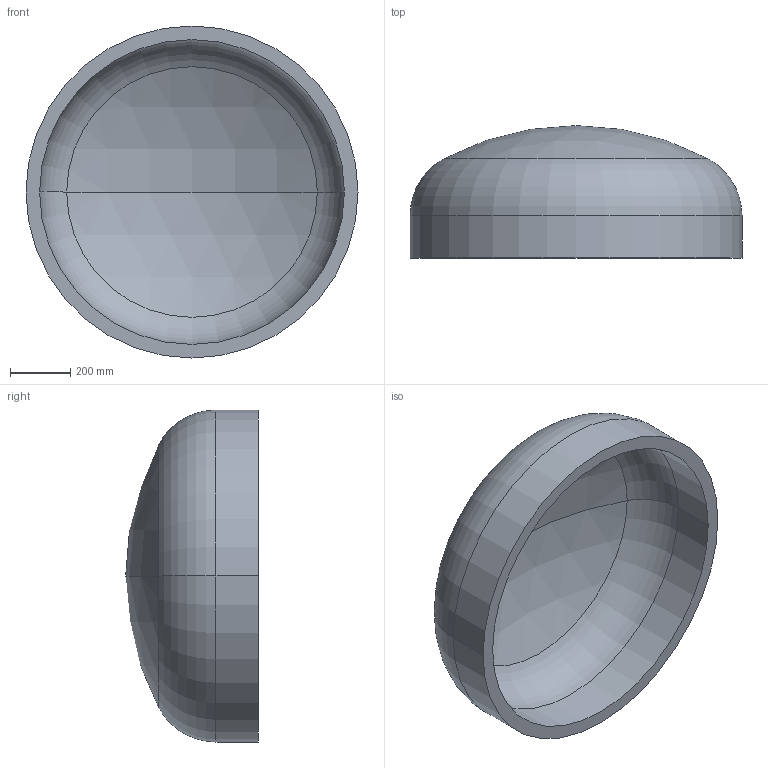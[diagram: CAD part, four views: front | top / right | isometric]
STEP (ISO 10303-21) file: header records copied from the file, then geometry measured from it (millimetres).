
FILE_DESCRIPTION (( 'STEP AP203' ), '1' );
FILE_NAME ('DIN 28013 Korbbogenform_-_Boden DIN 28013 - 1100 x 140 - I - s=45.step', '2016-07-01T09:08:43', ( '' ), ( '' ), 'SwSTEP 2.0', 'SolidWorks 2013', '' );
FILE_SCHEMA (( 'CONFIG_CONTROL_DESIGN' ));
Length unit declared in the file: millimetre
Products named in the file (1): DIN 28013 Korbbogenform_-_Boden DIN 28013 - 1100 x 140 - I - s=45
Bounding box: 1100 x 439 x 1100 mm (x, y, z)
Volume: 77094364.3 mm3; surface area: 3579803.7 mm2
Topology: 1 solids, 1 shells, 13 faces, 24 edges, 14 vertices
Faces by surface type: torus 4, cylinder 4, sphere 4, plane 1
Entity records: 407 total; most frequent: DIRECTION 72, CARTESIAN_POINT 52, ORIENTED_EDGE 48, AXIS2_PLACEMENT_3D 34, EDGE_CURVE 24, CIRCLE 20, VERTEX_POINT 14, EDGE_LOOP 14
